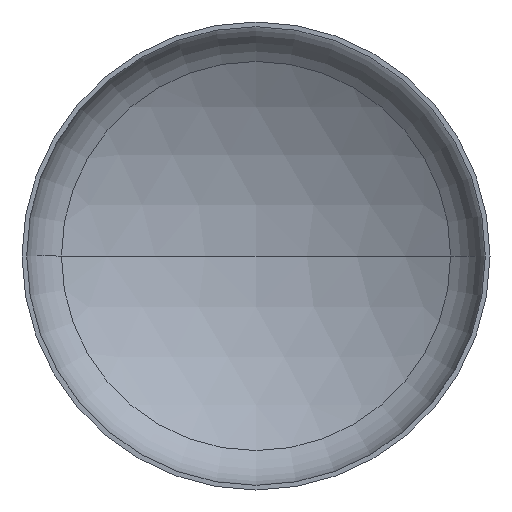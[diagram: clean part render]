
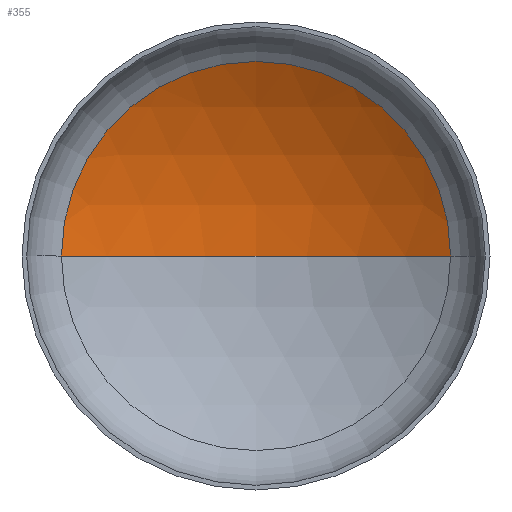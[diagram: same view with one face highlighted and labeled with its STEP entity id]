
A CAD part, front view. The second image highlights one B-rep face of the part: STEP entity #355.
In plain terms, the highlighted spherical face has radius 3600 mm.
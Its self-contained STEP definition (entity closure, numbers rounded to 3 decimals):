
#1 = AXIS2_PLACEMENT_3D ( 'NONE', #204, #95, #96 ) ;
#2 = AXIS2_PLACEMENT_3D ( 'NONE', #265, #72, #285 ) ;
#8 = CARTESIAN_POINT ( 'NONE',  ( 0., 1258.282, 0. ) ) ;
#10 = AXIS2_PLACEMENT_3D ( 'NONE', #140, #383, #48 ) ;
#23 = ORIENTED_EDGE ( 'NONE', *, *, #365, .T. ) ;
#48 = DIRECTION ( 'NONE',  ( 1., 0., 0. ) ) ;
#68 = CIRCLE ( 'NONE', #315, 1871.256 ) ;
#72 = DIRECTION ( 'NONE',  ( 0., 0., -1. ) ) ;
#78 = CIRCLE ( 'NONE', #10, 3600. ) ;
#93 = VERTEX_POINT ( 'NONE', #326 ) ;
#95 = DIRECTION ( 'NONE',  ( 0., 0., -1. ) ) ;
#96 = DIRECTION ( 'NONE',  ( -1., 0., 0. ) ) ;
#140 = CARTESIAN_POINT ( 'NONE',  ( 0., -2341.718, 0. ) ) ;
#165 = SPHERICAL_SURFACE ( 'NONE', #1, 3600. ) ;
#179 = ORIENTED_EDGE ( 'NONE', *, *, #372, .T. ) ;
#187 = VERTEX_POINT ( 'NONE', #219 ) ;
#204 = CARTESIAN_POINT ( 'NONE',  ( 0., -2341.718, 0. ) ) ;
#212 = ORIENTED_EDGE ( 'NONE', *, *, #349, .F. ) ;
#214 = CARTESIAN_POINT ( 'NONE',  ( 0., 733.733, 0. ) ) ;
#215 = DIRECTION ( 'NONE',  ( 0., -1., 0. ) ) ;
#219 = CARTESIAN_POINT ( 'NONE',  ( -1871.256, 733.733, 0. ) ) ;
#241 = FACE_OUTER_BOUND ( 'NONE', #334, .T. ) ;
#248 = VERTEX_POINT ( 'NONE', #8 ) ;
#265 = CARTESIAN_POINT ( 'NONE',  ( 0., -2341.718, 0. ) ) ;
#285 = DIRECTION ( 'NONE',  ( -1., 0., 0. ) ) ;
#315 = AXIS2_PLACEMENT_3D ( 'NONE', #214, #215, #393 ) ;
#326 = CARTESIAN_POINT ( 'NONE',  ( 1871.256, 733.733, 0. ) ) ;
#334 = EDGE_LOOP ( 'NONE', ( #212, #23, #179 ) ) ;
#349 = EDGE_CURVE ( 'NONE', #248, #187, #78, .T. ) ;
#355 = ADVANCED_FACE ( 'NONE', ( #241 ), #165, .F. ) ;
#365 = EDGE_CURVE ( 'NONE', #248, #93, #376, .T. ) ;
#372 = EDGE_CURVE ( 'NONE', #93, #187, #68, .T. ) ;
#376 = CIRCLE ( 'NONE', #2, 3600. ) ;
#383 = DIRECTION ( 'NONE',  ( 0., 0., 1. ) ) ;
#393 = DIRECTION ( 'NONE',  ( 1., 0., 0. ) ) ;
